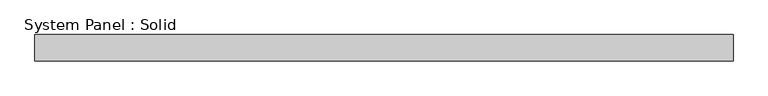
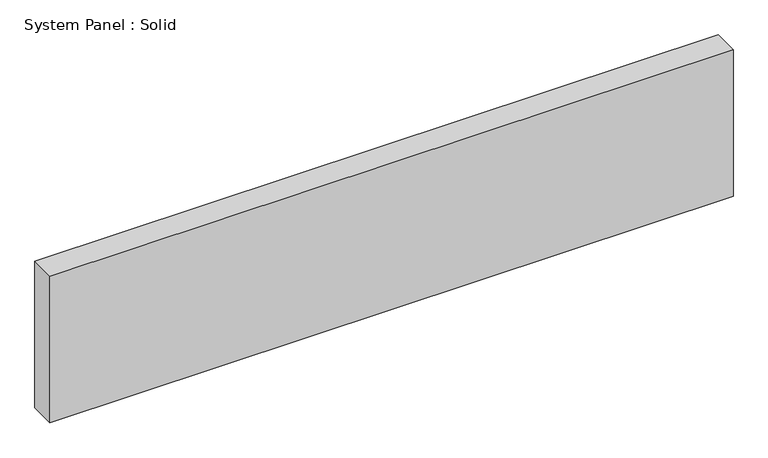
"""IFC4 building model written with IfcOpenShell, lengths in millimetres: plate geometry, System Panel : Solid."""

from ifc_helpers import new_model, si_unit, origin, origin_with_axes, place, context, project, spatial, polyline, outline, extrude, source, transform, mapped, element, save


def system_panel_solid_9766ab31(model_context):
    return source(origin(), model_context, "Body", "SweptSolid", [
        extrude(outline(polyline([(835.4173679, -19.05), (-835.4173679, -19.05), (-835.4173679, 44.45), (835.4173679, 44.45), (835.4173679, -19.05)])), origin_with_axes(), (0.0, 0.0, 1.0), 379.1388226),
    ])


if __name__ == "__main__":
    model = new_model("IFC4")
    model_context = context("Model", 3, world=origin())
    ifc_project = project(units=[si_unit("LENGTHUNIT", "METRE", prefix="MILLI")], contexts=[model_context])
    site = spatial("IfcSite", under=ifc_project)
    building = spatial("IfcBuilding", under=site)
    placement = place(None, origin())
    system_panel_solid_shape = system_panel_solid_9766ab31(model_context)
    element("IfcPlate", 1, ObjectType="System Panel : Solid", at=placement, inside=building, context=model_context, shape_type="MappedRepresentation", body=[
        mapped(system_panel_solid_shape, transform((0.0, 0.0, 0.0), x_axis=(1.0, 0.0, 0.0), y_axis=(0.0, 1.0, 0.0), z_axis=(0.0, 0.0, 1.0))),
    ])
    save(model, "model.ifc")
